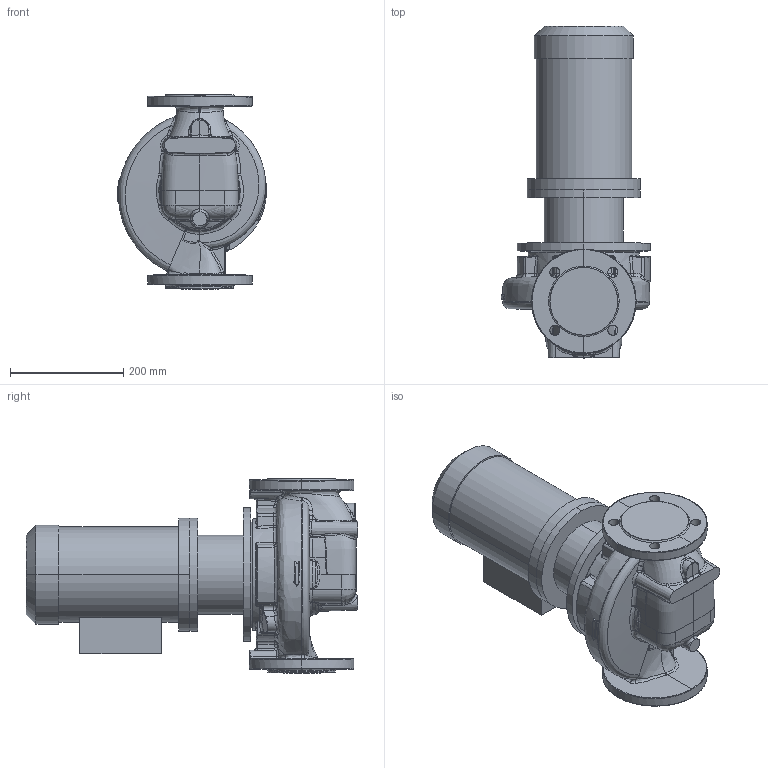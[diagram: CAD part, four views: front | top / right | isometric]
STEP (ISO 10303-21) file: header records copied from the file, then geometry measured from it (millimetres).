
FILE_DESCRIPTION (( 'STEP AP214' ), '1' );
FILE_NAME ('KRL 65-160-4-1,5.STEP', '2026-03-23T07:49:28', ( '' ), ( '' ), 'SwSTEP 2.0', 'SolidWorks 2016', '' );
FILE_SCHEMA (( 'AUTOMOTIVE_DESIGN' ));
Length unit declared in the file: millimetre
Products named in the file (1): KRL 65-160-4-1,5
Bounding box: 263.79 x 587.3 x 345 mm (x, y, z)
Volume: 18119101.4 mm3; surface area: 853273.4 mm2
Topology: 4 solids, 4 shells, 642 faces, 1526 edges, 886 vertices
Faces by surface type: bspline 357, cylinder 106, plane 88, sphere 42, cone 31, torus 18
Entity records: 67941 total; most frequent: CARTESIAN_POINT 49083, ORIENTED_EDGE 3008, DIRECTION 1705, EDGE_CURVE 1504, VERTEX_POINT 886, AXIS2_PLACEMENT_3D 752, B_SPLINE_CURVE_WITH_KNOTS 711, EDGE_LOOP 666
